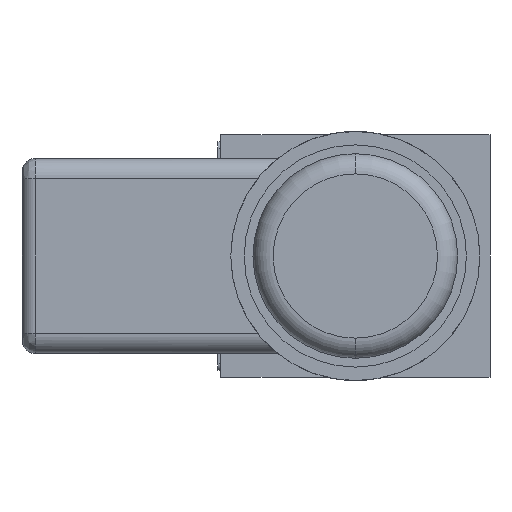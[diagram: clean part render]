
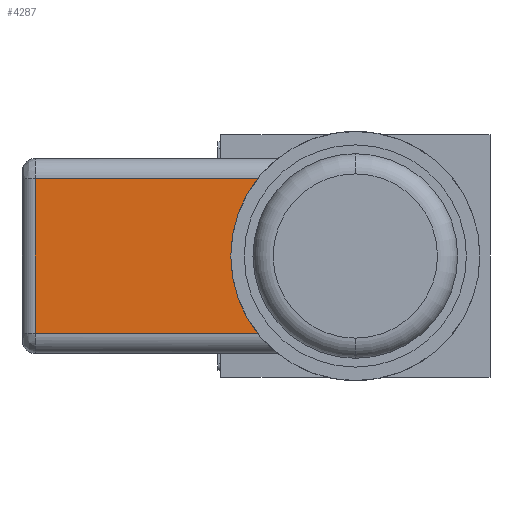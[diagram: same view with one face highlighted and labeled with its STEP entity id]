
A CAD part, left-side view. The second image highlights one B-rep face of the part: STEP entity #4287.
In plain terms, the highlighted planar face has unit normal (-1, 0, 0).
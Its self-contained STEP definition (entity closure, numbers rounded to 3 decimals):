
#514=DIRECTION('',(0.,0.,-1.));
#515=VECTOR('',#514,23.);
#516=CARTESIAN_POINT('',(-61.,47.5,11.5));
#517=LINE('',#516,#515);
#583=DIRECTION('',(0.,1.,0.));
#584=VECTOR('',#583,33.009);
#585=CARTESIAN_POINT('',(-61.,14.491,11.5));
#586=LINE('',#585,#584);
#587=CARTESIAN_POINT('',(-61.,0.,0.));
#588=DIRECTION('',(-1.,0.,0.));
#589=DIRECTION('',(0.,0.783,0.622));
#590=AXIS2_PLACEMENT_3D('',#587,#588,#589);
#592=CARTESIAN_POINT('',(-61.,0.,0.));
#593=DIRECTION('',(-1.,0.,0.));
#594=DIRECTION('',(0.,1.,0.));
#595=AXIS2_PLACEMENT_3D('',#592,#593,#594);
#614=CARTESIAN_POINT('',(-61.,14.491,-11.5));
#647=DIRECTION('',(0.,-1.,0.));
#648=VECTOR('',#647,33.009);
#649=CARTESIAN_POINT('',(-61.,47.5,-11.5));
#650=LINE('',#649,#648);
#2917=CARTESIAN_POINT('',(-61.,18.5,0.));
#2918=VERTEX_POINT('',#2917);
#2919=CARTESIAN_POINT('',(-61.,14.491,11.5));
#2920=VERTEX_POINT('',#2919);
#3438=VERTEX_POINT('',#614);
#3443=CARTESIAN_POINT('',(-61.,47.5,-11.5));
#3444=VERTEX_POINT('',#3443);
#3445=CARTESIAN_POINT('',(-61.,47.5,11.5));
#3446=VERTEX_POINT('',#3445);
#4273=CARTESIAN_POINT('',(-61.,29.5,11.5));
#4274=DIRECTION('',(-1.,0.,0.));
#4275=DIRECTION('',(0.,0.,-1.));
#4276=AXIS2_PLACEMENT_3D('',#4273,#4274,#4275);
#4277=PLANE('',#4276);
#4278=ORIENTED_EDGE('',*,*,#4163,.F.);
#4279=ORIENTED_EDGE('',*,*,#4268,.F.);
#4280=ORIENTED_EDGE('',*,*,#4023,.T.);
#4282=ORIENTED_EDGE('',*,*,#4281,.T.);
#4284=ORIENTED_EDGE('',*,*,#4283,.F.);
#4285=EDGE_LOOP('',(#4278,#4279,#4280,#4282,#4284));
#4286=FACE_OUTER_BOUND('',#4285,.F.);
#591=CIRCLE('',#590,18.5);
#596=CIRCLE('',#595,18.5);
#4023=EDGE_CURVE('',#2920,#2918,#591,.T.);
#4163=EDGE_CURVE('',#3446,#3444,#517,.T.);
#4268=EDGE_CURVE('',#2920,#3446,#586,.T.);
#4281=EDGE_CURVE('',#2918,#3438,#596,.T.);
#4283=EDGE_CURVE('',#3444,#3438,#650,.T.);
#4287=ADVANCED_FACE('',(#4286),#4277,.T.);
